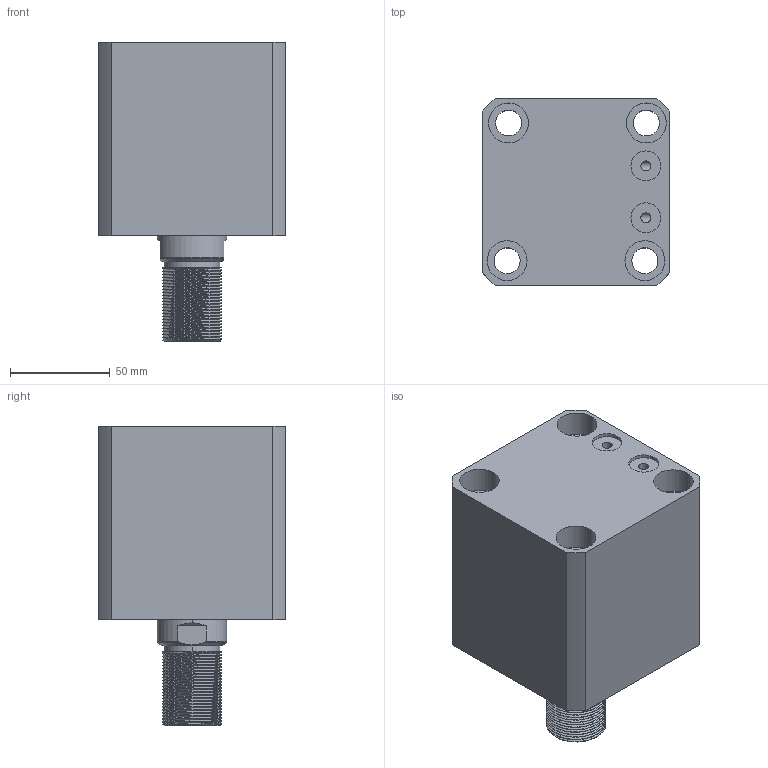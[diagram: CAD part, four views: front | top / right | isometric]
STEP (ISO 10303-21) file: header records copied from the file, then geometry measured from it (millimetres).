
FILE_DESCRIPTION (( 'STEP AP214' ), '1' );
FILE_NAME ('chtb-sdmb63x30w_asm.STEP', '2018-05-18T11:03:29', ( 'Windows' ), ( 'Microsoft' ), 'SwSTEP 2.0', 'SolidWorks 2015', '' );
FILE_SCHEMA (( 'AUTOMOTIVE_DESIGN' ));
Length unit declared in the file: millimetre
Products named in the file (4): CHTB-SDMB63X30NBT; CHTB63X30WHSG; CHTB-63QG; chtb-sdmb63x30w_asm
Assembly tree (3 placements, depth 2):
  chtb-sdmb63x30w_asm
    CHTB-63QG
    CHTB63X30WHSG
    CHTB-SDMB63X30NBT
Bounding box: 94 x 94 x 150 mm (x, y, z)
Volume: 751344.7 mm3; surface area: 133145 mm2
Topology: 3 solids, 3 shells, 218 faces, 628 edges, 427 vertices
Faces by surface type: cylinder 156, plane 33, bspline 14, cone 9, torus 6
Entity records: 22278 total; most frequent: CARTESIAN_POINT 17042, ORIENTED_EDGE 1248, DIRECTION 869, EDGE_CURVE 624, VERTEX_POINT 427, AXIS2_PLACEMENT_3D 339, EDGE_LOOP 251, FACE_OUTER_BOUND 218
